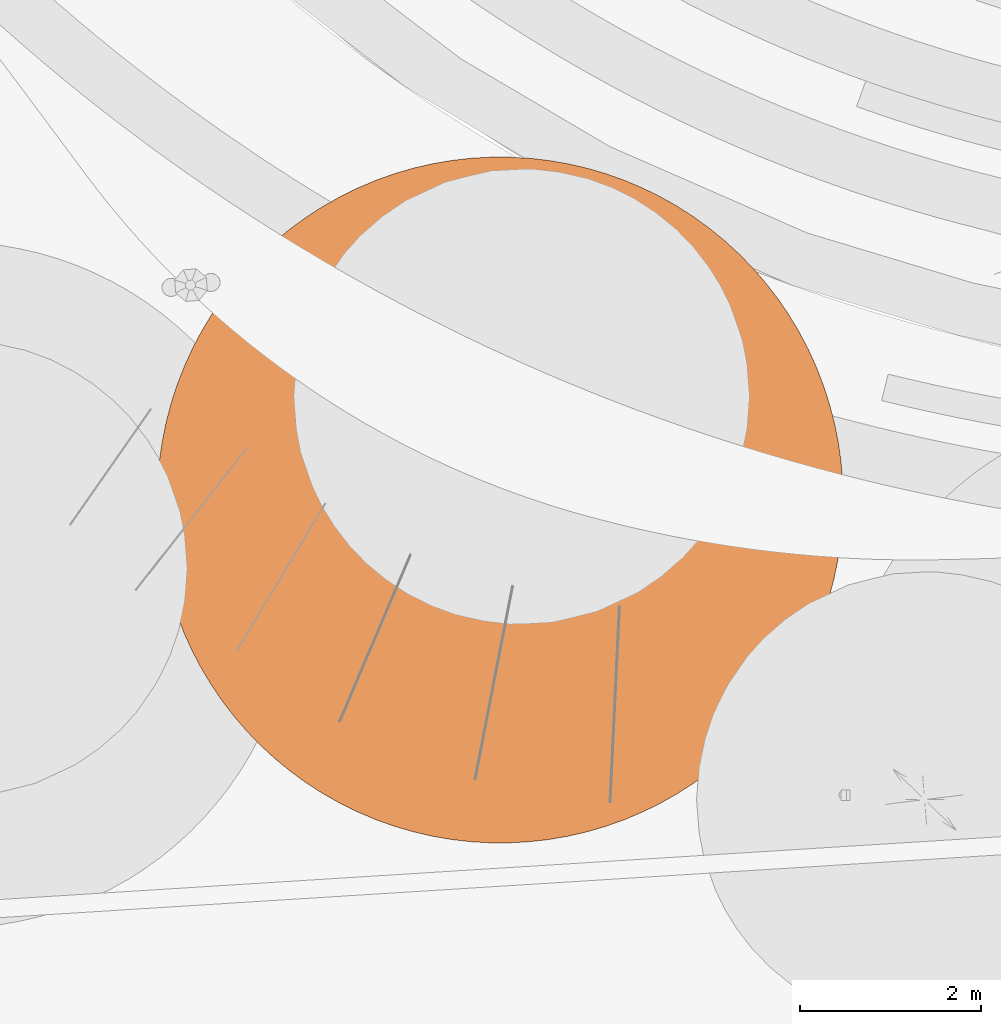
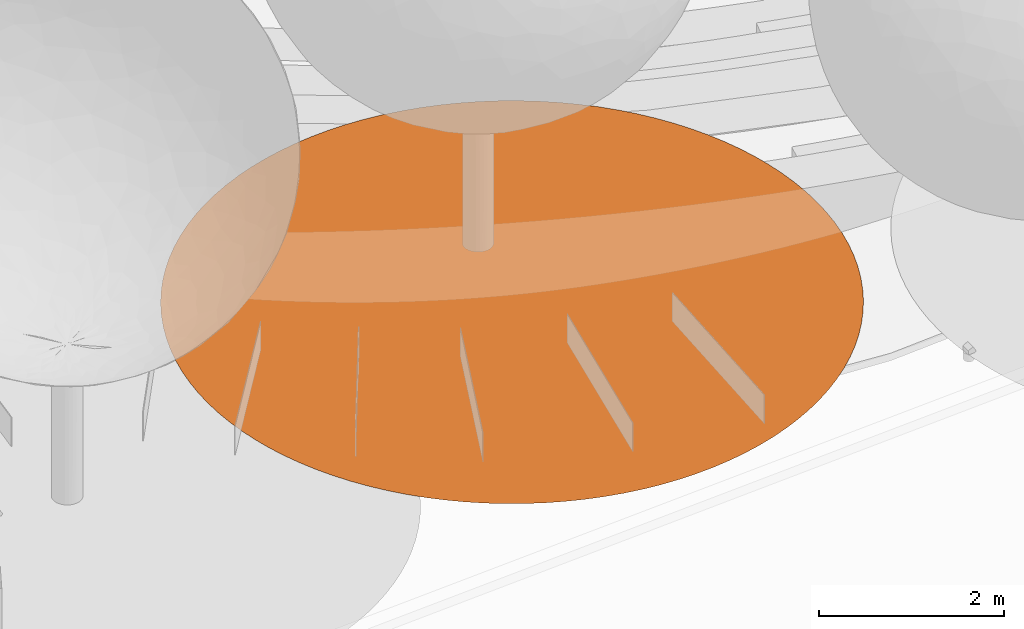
# One storey, part 64 of 75: 1 proxy.
"""IFC2X3 building model written with IfcOpenShell, lengths in metres."""

from ifc_helpers import new_model, entity, si_unit, converted_unit, derived_unit, direction, frame, origin, place, context, subcontext, project, spatial, face_set, surface_model, source, transform, mapped, material, type_object, type_shapes, element, save


model = new_model("IFC2X3")

# Units and contexts
model_context = context("Model", 3, precision=1e-05, world=origin(), true_north=direction((6.123031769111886e-17, 1.0)))
body_context = subcontext(model_context, "Body", "Model", "MODEL_VIEW")
ifc_project = project(units=[si_unit("LENGTHUNIT", "METRE"), si_unit("AREAUNIT", "SQUARE_METRE"), si_unit("VOLUMEUNIT", "CUBIC_METRE"), converted_unit("PLANEANGLEUNIT", "DEGREE", entity("IfcRatioMeasure", 0.017453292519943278), si_unit("PLANEANGLEUNIT", "RADIAN"), dimensions=[0, 0, 0, 0, 0, 0, 0]), si_unit("MASSUNIT", "GRAM", prefix="KILO"), derived_unit("MASSDENSITYUNIT", [(si_unit("MASSUNIT", "GRAM", prefix="KILO"), 1), (si_unit("LENGTHUNIT", "METRE"), -3)]), derived_unit("IONCONCENTRATIONUNIT", [(si_unit("MASSUNIT", "GRAM", prefix="KILO"), 1), (si_unit("LENGTHUNIT", "METRE"), -3)]), derived_unit("MOMENTOFINERTIAUNIT", [(si_unit("LENGTHUNIT", "METRE"), 4)]), si_unit("TIMEUNIT", "SECOND"), si_unit("FREQUENCYUNIT", "HERTZ"), si_unit("THERMODYNAMICTEMPERATUREUNIT", "DEGREE_CELSIUS"), derived_unit("THERMALTRANSMITTANCEUNIT", [(si_unit("MASSUNIT", "GRAM", prefix="KILO"), 1), (si_unit("THERMODYNAMICTEMPERATUREUNIT", "KELVIN"), -1), (si_unit("TIMEUNIT", "SECOND"), -3)]), derived_unit("THERMALCONDUCTANCEUNIT", [(si_unit("MASSUNIT", "GRAM", prefix="KILO"), 1), (si_unit("THERMODYNAMICTEMPERATUREUNIT", "KELVIN"), -1), (si_unit("TIMEUNIT", "SECOND"), -3), (si_unit("LENGTHUNIT", "METRE"), 1)]), derived_unit("VOLUMETRICFLOWRATEUNIT", [(si_unit("LENGTHUNIT", "METRE"), 3), (si_unit("TIMEUNIT", "SECOND"), -1)]), derived_unit("MASSFLOWRATEUNIT", [(si_unit("MASSUNIT", "GRAM", prefix="KILO"), 1), (si_unit("TIMEUNIT", "SECOND"), -1)]), derived_unit("ROTATIONALFREQUENCYUNIT", [(si_unit("TIMEUNIT", "SECOND"), -1)]), si_unit("ELECTRICCURRENTUNIT", "AMPERE"), si_unit("ELECTRICVOLTAGEUNIT", "VOLT"), si_unit("POWERUNIT", "WATT"), si_unit("FORCEUNIT", "NEWTON", prefix="KILO"), si_unit("ILLUMINANCEUNIT", "LUX"), si_unit("LUMINOUSFLUXUNIT", "LUMEN"), si_unit("LUMINOUSINTENSITYUNIT", "CANDELA"), derived_unit("USERDEFINED", [(si_unit("MASSUNIT", "GRAM", prefix="KILO"), -1), (si_unit("LENGTHUNIT", "METRE"), -2), (si_unit("TIMEUNIT", "SECOND"), 3), (si_unit("LUMINOUSFLUXUNIT", "LUMEN"), 1)]), derived_unit("USERDEFINED", [(si_unit("MASSUNIT", "GRAM", prefix="KILO"), 1), (si_unit("TIMEUNIT", "SECOND"), -3), (si_unit("LENGTHUNIT", "METRE"), 3), (si_unit("ELECTRICCURRENTUNIT", "AMPERE"), -2)]), derived_unit("SOUNDPOWERUNIT", [(si_unit("MASSUNIT", "GRAM", prefix="KILO"), 1), (si_unit("TIMEUNIT", "SECOND"), -3), (si_unit("LENGTHUNIT", "METRE"), 2)]), derived_unit("SOUNDPRESSUREUNIT", [(si_unit("MASSUNIT", "GRAM", prefix="KILO"), 1), (si_unit("LENGTHUNIT", "METRE"), -1), (si_unit("TIMEUNIT", "SECOND"), -2)]), derived_unit("LINEARVELOCITYUNIT", [(si_unit("LENGTHUNIT", "METRE"), 1), (si_unit("TIMEUNIT", "SECOND"), -1)]), si_unit("PRESSUREUNIT", "PASCAL"), derived_unit("USERDEFINED", [(si_unit("MASSUNIT", "GRAM", prefix="KILO"), 1), (si_unit("LENGTHUNIT", "METRE"), -2), (si_unit("TIMEUNIT", "SECOND"), -2)]), derived_unit("LINEARFORCEUNIT", [(si_unit("MASSUNIT", "GRAM", prefix="KILO"), 1), (si_unit("TIMEUNIT", "SECOND"), -2)]), derived_unit("PLANARFORCEUNIT", [(si_unit("MASSUNIT", "GRAM", prefix="KILO"), 1), (si_unit("LENGTHUNIT", "METRE"), -1), (si_unit("TIMEUNIT", "SECOND"), -2)]), derived_unit("SPECIFICHEATCAPACITYUNIT", [(si_unit("THERMODYNAMICTEMPERATUREUNIT", "KELVIN"), -1), (si_unit("LENGTHUNIT", "METRE"), 2), (si_unit("TIMEUNIT", "SECOND"), -2)]), derived_unit("HEATINGVALUEUNIT", [(si_unit("LENGTHUNIT", "METRE"), 2), (si_unit("TIMEUNIT", "SECOND"), -2)]), derived_unit("VAPORPERMEABILITYUNIT", [(si_unit("LENGTHUNIT", "METRE"), -1), (si_unit("TIMEUNIT", "SECOND"), 1)]), derived_unit("DYNAMICVISCOSITYUNIT", [(si_unit("MASSUNIT", "GRAM", prefix="KILO"), 1), (si_unit("TIMEUNIT", "SECOND"), -1), (si_unit("LENGTHUNIT", "METRE"), -1)]), derived_unit("THERMALEXPANSIONCOEFFICIENTUNIT", [(si_unit("THERMODYNAMICTEMPERATUREUNIT", "KELVIN"), -1)]), derived_unit("MODULUSOFELASTICITYUNIT", [(si_unit("MASSUNIT", "GRAM", prefix="KILO"), 1), (si_unit("LENGTHUNIT", "METRE"), -1), (si_unit("TIMEUNIT", "SECOND"), -2)]), derived_unit("ISOTHERMALMOISTURECAPACITYUNIT", [(si_unit("LENGTHUNIT", "METRE"), 3), (si_unit("MASSUNIT", "GRAM", prefix="KILO"), -1)]), derived_unit("MOISTUREDIFFUSIVITYUNIT", [(si_unit("TIMEUNIT", "SECOND"), -1), (si_unit("LENGTHUNIT", "METRE"), 2)])], contexts=[model_context])

# Site, building, storey
site_placement = place(None, origin())
site = spatial("IfcSite", under=ifc_project, at=site_placement, Name="Default", CompositionType="ELEMENT")
building_placement = place(site_placement, origin())
building = spatial("IfcBuilding", under=site, at=building_placement, Name="Projeto", CompositionType="ELEMENT")
storey_placement = place(building_placement, origin())
storey = spatial("IfcBuildingStorey", under=building, at=storey_placement, Name="Nível 1", CompositionType="ELEMENT", Elevation=0.0)

# Proxy
ifc_material = material(Name="<Unnamed>")
building_element_proxy_type = type_object("IfcBuildingElementProxyType", Name="Arvore simplificada:Arvore simplificada", PredefinedType="NOTDEFINED", material=ifc_material)
shared_shape = source(origin(), body_context, "Body", "SurfaceModel", [
    surface_model("IfcFaceBasedSurfaceModel", [(-3.9544974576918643, -0.18317979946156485, 0.0), (-3.9483138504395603, -0.3996342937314, 0.0), (-3.929783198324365, -0.6153827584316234, 0.0), (-3.8989659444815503, -0.8297214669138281, 0.0), (-3.855962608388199, -1.0419512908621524, 0.0), (-3.8009134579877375, -1.2513799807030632, 0.0), (-3.733998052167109, -1.4573244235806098, 0.0), (-3.655434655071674, -1.6591128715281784, 0.0), (-3.5654795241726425, -1.8560871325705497, 0.0), (-3.4644260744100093, -2.0476047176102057, 0.0), (-3.3526039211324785, -2.2330409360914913, 0.0), (-3.2303778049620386, -2.411790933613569, 0.0), (-3.098146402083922, -2.583271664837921, 0.0), (-2.9563410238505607, -2.7469237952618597, 0.0), (-2.8054242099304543, -2.9022135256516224, 0.0), (-2.6458882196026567, -3.048634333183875, 0.0), (-2.4782534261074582, -3.1857086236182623, 0.0), (-2.3030666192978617, -3.3129892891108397, 0.0), (-2.12089922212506, -3.430061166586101, 0.0), (-1.93234542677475, -3.5365423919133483, 0.0), (-1.7380202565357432, -3.632085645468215, 0.0), (-1.5385575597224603, -3.7163792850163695, 0.0), (-1.3346079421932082, -3.789148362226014, 0.0), (-1.1268366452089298, -3.8501555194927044, 0.0), (-0.9159213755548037, -3.8992017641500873, 0.0), (-0.7025500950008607, -3.9361271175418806, 0.0), (-0.48741877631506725, -3.9608111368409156, 0.0), (-0.2712291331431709, -3.9731733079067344, 0.0), (-0.054686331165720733, -3.9731733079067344, 0.0), (0.16150331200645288, -3.9608111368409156, 0.0), (0.3766346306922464, -3.9361271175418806, 0.0), (0.5900059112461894, -3.8992017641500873, 0.0), (0.8009211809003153, -3.8501555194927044, 0.0), (1.0086924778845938, -3.789148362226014, 0.0), (1.212642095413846, -3.7163792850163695, 0.0), (1.4121047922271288, -3.632085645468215, 0.0), (1.6064299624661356, -3.5365423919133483, 0.0), (1.7949837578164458, -3.430061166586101, 0.0), (1.9771511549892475, -3.3129892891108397, 0.0), (2.152337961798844, -3.1857086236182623, 0.0), (2.3199727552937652, -3.048634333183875, 0.0), (2.479508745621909, -2.9022135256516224, 0.0), (2.6304255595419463, -2.7469237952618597, 0.0), (2.7722309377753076, -2.583271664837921, 0.0), (2.9044623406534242, -2.411790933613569, 0.0), (3.026688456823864, -2.2330409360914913, 0.0), (3.138510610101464, -2.0476047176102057, 0.0), (3.239564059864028, -1.8560871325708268, 0.0), (3.3295191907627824, -1.6591128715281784, 0.0), (3.4080825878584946, -1.4573244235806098, 0.0), (3.474997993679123, -1.2513799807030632, 0.0), (3.5300471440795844, -1.0419512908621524, 0.0), (3.573050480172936, -0.8297214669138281, 0.0), (3.6038677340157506, -0.6153827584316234, 0.0), (3.622398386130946, -0.3996342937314, 0.0), (3.62858199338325, -0.18317979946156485, 0.0), (3.622398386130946, 0.03327469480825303, 0.0), (3.6038677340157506, 0.24902315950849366, 0.0), (3.573050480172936, 0.4633618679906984, 0.0), (3.5300471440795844, 0.6755916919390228, 0.0), (3.474997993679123, 0.8850203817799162, 0.0), (3.4080825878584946, 1.0909648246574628, 0.0), (3.3295191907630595, 1.2927532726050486, 0.0), (3.239564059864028, 1.4897275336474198, 0.0), (3.138510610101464, 1.6812451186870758, 0.0), (3.026688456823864, 1.8666813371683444, 0.0), (2.9044623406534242, 2.0454313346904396, 0.0), (2.7722309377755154, 2.2169120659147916, 0.0), (2.6304255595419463, 2.38056419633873, 0.0), (2.479508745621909, 2.535853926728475, 0.0), (2.3199727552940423, 2.682274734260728, 0.0), (2.152337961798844, 2.819349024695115, 0.0), (1.9771511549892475, 2.946629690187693, 0.0), (1.7949837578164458, 3.063701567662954, 0.0), (1.6064299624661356, 3.1701827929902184, 0.0), (1.4121047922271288, 3.265726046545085, 0.0), (1.212642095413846, 3.3500196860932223, 0.0), (1.0086924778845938, 3.422788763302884, 0.0), (0.8009211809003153, 3.4837959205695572, 0.0), (0.5900059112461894, 3.5328421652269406, 0.0), (0.3766346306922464, 3.5697675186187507, 0.0), (0.16150331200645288, 3.5944515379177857, 0.0), (-0.05468633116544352, 3.606813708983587, 0.0), (-0.27122913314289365, 3.606813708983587, 0.0), (-0.48741877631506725, 3.5944515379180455, 0.0), (-0.7025500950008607, 3.5697675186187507, 0.0), (-0.9159213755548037, 3.5328421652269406, 0.0), (-1.1268366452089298, 3.4837959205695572, 0.0), (-1.3346079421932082, 3.422788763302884, 0.0), (-1.5385575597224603, 3.3500196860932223, 0.0), (-1.7380202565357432, 3.265726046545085, 0.0), (-1.93234542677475, 3.1701827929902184, 0.0), (-2.12089922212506, 3.063701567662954, 0.0), (-2.3030666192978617, 2.946629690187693, 0.0), (-2.4782534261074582, 2.819349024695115, 0.0), (-2.6458882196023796, 2.682274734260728, 0.0), (-2.8054242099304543, 2.535853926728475, 0.0), (-2.9563410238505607, 2.38056419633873, 0.0), (-3.098146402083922, 2.2169120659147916, 0.0), (-3.2303778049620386, 2.0454313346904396, 0.0), (-3.3526039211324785, 1.8666813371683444, 0.0), (-3.4644260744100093, 1.6812451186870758, 0.0), (-3.5654795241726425, 1.4897275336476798, 0.0), (-3.6554346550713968, 1.2927532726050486, 0.0), (-3.733998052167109, 1.0909648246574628, 0.0), (-3.8009134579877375, 0.8850203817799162, 0.0), (-3.855962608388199, 0.6755916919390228, 0.0), (-3.8989659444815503, 0.4633618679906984, 0.0), (-3.929783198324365, 0.24902315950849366, 0.0), (-3.9483138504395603, 0.03327469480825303, 0.0)], [face_set([[[0, 1, 2, 3, 4, 5, 6, 7, 8, 9, 10, 11, 12, 13, 14, 15, 16, 17, 18, 19, 20, 21, 22, 23, 24, 25, 26, 27, 28, 29, 30, 31, 32, 33, 34, 35, 36, 37, 38, 39, 40, 41, 42, 43, 44, 45, 46, 47, 48, 49, 50, 51, 52, 53, 54, 55, 56, 57, 58, 59, 60, 61, 62, 63, 64, 65, 66, 67, 68, 69, 70, 71, 72, 73, 74, 75, 76, 77, 78, 79, 80, 81, 82, 83, 84, 85, 86, 87, 88, 89, 90, 91, 92, 93, 94, 95, 96, 97, 98, 99, 100, 101, 102, 103, 104, 105, 106, 107, 108, 109]]])]),
])
type_shapes(building_element_proxy_type, [shared_shape])
proxy_placement = place(storey_placement, frame((-4.694888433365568, -15.171880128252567, 0.0), z_axis=(0.0, 0.0, 1.0), x_axis=(0.9422539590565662, 0.3348992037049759, 0.0)))
element("IfcBuildingElementProxy", 1, at=proxy_placement, inside=storey, type_object=building_element_proxy_type, material=ifc_material, Name="Arvore simplificada:Arvore simplificada", ObjectType="Arvore simplificada:Arvore simplificada", context=body_context, shape_type="MappedRepresentation", body=[
    mapped(shared_shape, transform((0.0, 0.0, 0.0), scale=1.0)),
])

save(model, "model.ifc")
